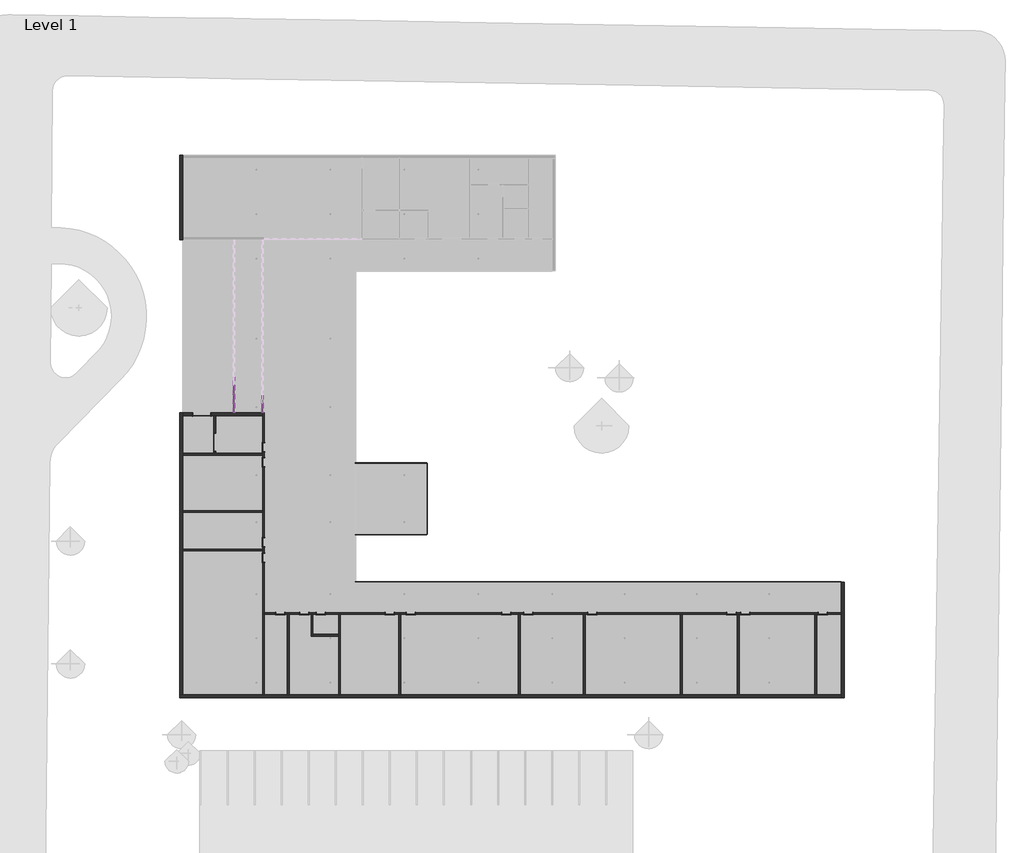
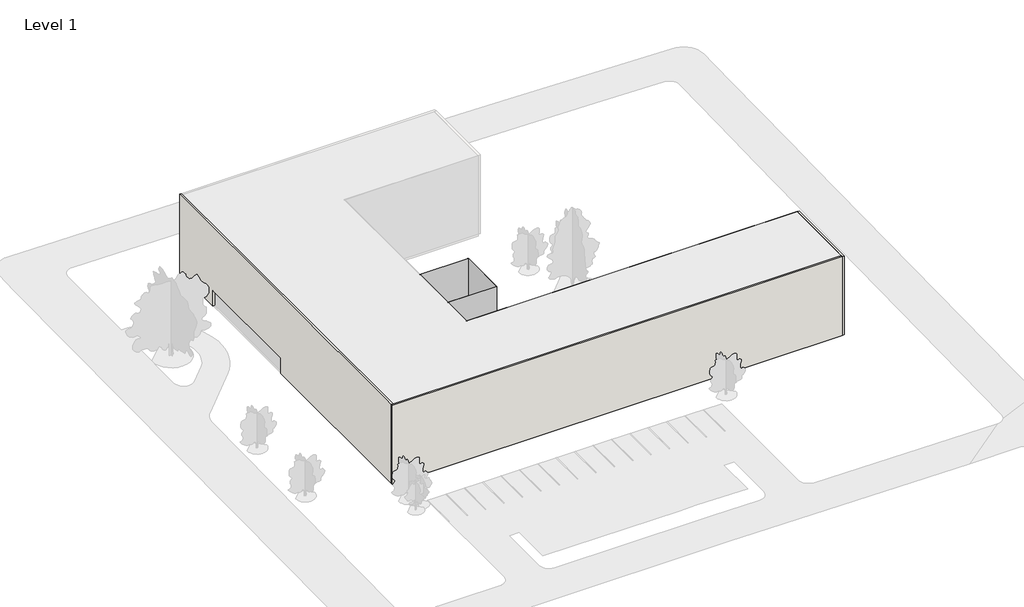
# One storey, part 1 of 5: 28 members, 21 walls, 17 doors, 13 plates.
"""IFC4 building model written with IfcOpenShell, lengths in millimetres."""

from ifc_helpers import new_model, si_unit, frame, origin, origin_with_axes, place, context, project, spatial, polyline, outline, extrude, faceted_brep, transform, mapped, element, save
from components import door_0915mm_x_2134mm_2aa27b83, door_0915mm_x_2134mm_3fa07aa3, door_2_x_0915mm_x_2134mm_c74f849d, door_2_x_0915mm_x_2134mm_afd50e46, rectangular_mullion_50mm_x_150mm_3fa3ad65, rectangular_mullion_50mm_x_150mm_d427b131, rectangular_mullion_50mm_x_150mm_d8a63713, rectangular_mullion_50mm_x_150mm_a28728bf, rectangular_mullion_50mm_x_150mm_a376ce0f, rectangular_mullion_50mm_x_150mm_4471a7bc, rectangular_mullion_50mm_x_150mm_22af440f, rectangular_mullion_50mm_x_150mm_0f59f38f, system_panel_glazed_1087ea87, system_panel_glazed_c5c625d1, system_panel_glazed_4d811192, system_panel_glazed_aa3f7126, system_panel_glazed_37b7c907, system_panel_glazed_7c3f78ea, system_panel_glazed_1f05e993

model = new_model("IFC4")

# Units and contexts
model_context = context("Model", 3, world=origin())
ifc_project = project(units=[si_unit("LENGTHUNIT", "METRE", prefix="MILLI")], contexts=[model_context])

# Site, building, storey
site = spatial("IfcSite", under=ifc_project)
building = spatial("IfcBuilding", under=site)
storey = spatial("IfcBuildingStorey", under=building, Name="Level 1", Elevation=0.0)

# Doors
placement = place(None, origin())
door_0915mm_x_2134mm_shape = door_0915mm_x_2134mm_2aa27b83(model_context)
element("IfcDoor", 1, ObjectType="m-doors-hm-f1-a : 0915mm x 2134mm", at=placement, inside=storey, context=model_context, shape_type="MappedRepresentation", body=[
    mapped(door_0915mm_x_2134mm_shape, transform((-1995.8386635, 1518.5392059, 0.0), x_axis=(0.0, 1.0, 0.0), y_axis=(-1.0, 0.0, 0.0), z_axis=(0.0, 0.0, 1.0))),
])
element("IfcDoor", 2, ObjectType="m-doors-hm-f1-a : 0915mm x 2134mm", at=placement, inside=storey, context=model_context, shape_type="MappedRepresentation", body=[
    mapped(door_0915mm_x_2134mm_shape, transform((-1995.8386635, -8075.8611817, 0.0), x_axis=(0.0, 1.0, 0.0), y_axis=(-1.0, 0.0, 0.0), z_axis=(0.0, 0.0, 1.0))),
])
element("IfcDoor", 3, ObjectType="m-doors-hm-f1-a : 0915mm x 2134mm", at=placement, inside=storey, context=model_context, shape_type="MappedRepresentation", body=[
    mapped(door_0915mm_x_2134mm_shape, transform((-123.8386635, -15479.7006057, 0.0), x_axis=(-1.0, 0.0, 0.0), y_axis=(0.0, -1.0, 0.0), z_axis=(0.0, 0.0, 1.0))),
])
element("IfcDoor", 4, ObjectType="m-doors-hm-f1-a : 0915mm x 2134mm", at=placement, inside=storey, context=model_context, shape_type="MappedRepresentation", body=[
    mapped(door_0915mm_x_2134mm_shape, transform((2284.1613365, -15479.7006057, 0.0), x_axis=(-1.0, 0.0, 0.0), y_axis=(0.0, -1.0, 0.0), z_axis=(0.0, 0.0, 1.0))),
])
element("IfcDoor", 5, ObjectType="m-doors-hm-f1-a : 0915mm x 2134mm", at=placement, inside=storey, context=model_context, shape_type="MappedRepresentation", body=[
    mapped(door_0915mm_x_2134mm_shape, transform((10961.1968037, -15479.7006057, 0.0), x_axis=(-1.0, 0.0, 0.0), y_axis=(0.0, -1.0, 0.0), z_axis=(0.0, 0.0, 1.0))),
])
element("IfcDoor", 6, ObjectType="m-doors-hm-f1-a : 0915mm x 2134mm", at=placement, inside=storey, context=model_context, shape_type="MappedRepresentation", body=[
    mapped(door_0915mm_x_2134mm_shape, transform((13061.1968037, -15479.7006057, 0.0), x_axis=(-1.0, 0.0, 0.0), y_axis=(0.0, -1.0, 0.0), z_axis=(0.0, 0.0, 1.0))),
])
element("IfcDoor", 7, ObjectType="m-doors-hm-f1-a : 0915mm x 2134mm", at=placement, inside=storey, context=model_context, shape_type="MappedRepresentation", body=[
    mapped(door_0915mm_x_2134mm_shape, transform((24961.1968037, -15479.7006057, 0.0), x_axis=(-1.0, 0.0, 0.0), y_axis=(0.0, -1.0, 0.0), z_axis=(0.0, 0.0, 1.0))),
])
element("IfcDoor", 8, ObjectType="m-doors-hm-f1-a : 0915mm x 2134mm", at=placement, inside=storey, context=model_context, shape_type="MappedRepresentation", body=[
    mapped(door_0915mm_x_2134mm_shape, transform((45561.1968037, -15479.7006057, 0.0), x_axis=(-1.0, 0.0, 0.0), y_axis=(0.0, -1.0, 0.0), z_axis=(0.0, 0.0, 1.0))),
])
door_0915mm_x_2134mm_2_shape = door_0915mm_x_2134mm_3fa07aa3(model_context)
element("IfcDoor", 9, ObjectType="m-doors-hm-f1-a : 0915mm x 2134mm", at=placement, inside=storey, context=model_context, shape_type="MappedRepresentation", body=[
    mapped(door_0915mm_x_2134mm_2_shape, transform((-1995.8386635, 18.5392059, 0.0), x_axis=(0.0, -1.0, 0.0), y_axis=(1.0, 0.0, 0.0), z_axis=(0.0, 0.0, 1.0))),
])
element("IfcDoor", 10, ObjectType="m-doors-hm-f1-a : 0915mm x 2134mm", at=placement, inside=storey, context=model_context, shape_type="MappedRepresentation", body=[
    mapped(door_0915mm_x_2134mm_2_shape, transform((-1995.8386635, -9675.8611817, 0.0), x_axis=(0.0, -1.0, 0.0), y_axis=(1.0, 0.0, 0.0), z_axis=(0.0, 0.0, 1.0))),
])
element("IfcDoor", 11, ObjectType="m-doors-hm-f1-a : 0915mm x 2134mm", at=placement, inside=storey, context=model_context, shape_type="MappedRepresentation", body=[
    mapped(door_0915mm_x_2134mm_2_shape, transform((3984.1613365, -15479.7006057, 0.0), x_axis=(1.0, 0.0, 0.0), y_axis=(0.0, 1.0, 0.0), z_axis=(0.0, 0.0, 1.0))),
])
element("IfcDoor", 12, ObjectType="m-doors-hm-f1-a : 0915mm x 2134mm", at=placement, inside=storey, context=model_context, shape_type="MappedRepresentation", body=[
    mapped(door_0915mm_x_2134mm_2_shape, transform((22761.1968037, -15479.7006057, 0.0), x_axis=(1.0, 0.0, 0.0), y_axis=(0.0, 1.0, 0.0), z_axis=(0.0, 0.0, 1.0))),
])
element("IfcDoor", 13, ObjectType="m-doors-hm-f1-a : 0915mm x 2134mm", at=placement, inside=storey, context=model_context, shape_type="MappedRepresentation", body=[
    mapped(door_0915mm_x_2134mm_2_shape, transform((31461.1968037, -15479.7006057, 0.0), x_axis=(1.0, 0.0, 0.0), y_axis=(0.0, 1.0, 0.0), z_axis=(0.0, 0.0, 1.0))),
])
element("IfcDoor", 14, ObjectType="m-doors-hm-f1-a : 0915mm x 2134mm", at=placement, inside=storey, context=model_context, shape_type="MappedRepresentation", body=[
    mapped(door_0915mm_x_2134mm_2_shape, transform((54804.1173382, -15479.7006057, 0.0), x_axis=(1.0, 0.0, 0.0), y_axis=(0.0, 1.0, 0.0), z_axis=(0.0, 0.0, 1.0))),
])
element("IfcDoor", 15, ObjectType="m-doors-hm-f1-a : 0915mm x 2134mm", at=placement, inside=storey, context=model_context, shape_type="MappedRepresentation", body=[
    mapped(door_0915mm_x_2134mm_2_shape, transform((46961.1968037, -15479.7006057, 0.0), x_axis=(1.0, 0.0, 0.0), y_axis=(0.0, 1.0, 0.0), z_axis=(0.0, 0.0, 1.0))),
])
door_2_x_0915mm_x_2134mm_shape = door_2_x_0915mm_x_2134mm_c74f849d(model_context)
element("IfcDoor", 16, ObjectType="m-doors-hm-f2-a : 2 x 0915mm x 2134mm", at=placement, inside=storey, context=model_context, shape_type="MappedRepresentation", body=[
    mapped(door_2_x_0915mm_x_2134mm_shape, transform((-6944.8386635, 2018.5392059, 0.0), x_axis=(0.0, 1.0, 0.0), y_axis=(-1.0, 0.0, 0.0), z_axis=(0.0, 0.0, 1.0))),
])
door_2_x_0915mm_x_2134mm_2_shape = door_2_x_0915mm_x_2134mm_afd50e46(model_context)
element("IfcDoor", 17, ObjectType="m-doors-hm-f2-a : 2 x 0915mm x 2134mm", at=placement, inside=storey, context=model_context, shape_type="MappedRepresentation", body=[
    mapped(door_2_x_0915mm_x_2134mm_2_shape, transform((-8069.8386635, 4696.5799804, 0.0), x_axis=(-1.0, 0.0, 0.0), y_axis=(0.0, -1.0, 0.0), z_axis=(0.0, 0.0, 1.0))),
])

# Members
rectangular_mullion_50mm_x_150mm_shape = rectangular_mullion_50mm_x_150mm_3fa3ad65(model_context)
element("IfcMember", 18, ObjectType="Rectangular Mullion : 50mm x 150mm", at=placement, inside=storey, context=model_context, shape_type="MappedRepresentation", body=[
    mapped(rectangular_mullion_50mm_x_150mm_shape, transform((-1903.8386635, 5072.5799804, 3550.0), x_axis=(0.0, 0.0, 1.0), y_axis=(-1.0, 0.0, 0.0), z_axis=(0.0, -1.0, 0.0))),
])
element("IfcMember", 19, ObjectType="Rectangular Mullion : 50mm x 150mm", at=placement, inside=storey, context=model_context, shape_type="MappedRepresentation", body=[
    mapped(rectangular_mullion_50mm_x_150mm_shape, transform((-4803.8386635, 5072.5799804, 3550.0), x_axis=(0.0, 0.0, 1.0), y_axis=(-1.0, 0.0, 0.0), z_axis=(0.0, -1.0, 0.0))),
])
rectangular_mullion_50mm_x_150mm_2_shape = rectangular_mullion_50mm_x_150mm_d427b131(model_context)
element("IfcMember", 20, ObjectType="Rectangular Mullion : 50mm x 150mm", at=placement, inside=storey, context=model_context, shape_type="MappedRepresentation", body=[
    mapped(rectangular_mullion_50mm_x_150mm_2_shape, transform((-1903.8386635, 5968.5273491, 3550.0), x_axis=(0.0, 0.0, 1.0), y_axis=(-1.0, 0.0, 0.0), z_axis=(0.0, -1.0, 0.0))),
])
element("IfcMember", 21, ObjectType="Rectangular Mullion : 50mm x 150mm", at=placement, inside=storey, context=model_context, shape_type="MappedRepresentation", body=[
    mapped(rectangular_mullion_50mm_x_150mm_2_shape, transform((-4803.8386635, 7810.4220859, 3550.0), x_axis=(0.0, 0.0, 1.0), y_axis=(-1.0, 0.0, 0.0), z_axis=(0.0, -1.0, 0.0))),
])
element("IfcMember", 22, ObjectType="Rectangular Mullion : 50mm x 150mm", at=placement, inside=storey, context=model_context, shape_type="MappedRepresentation", body=[
    mapped(rectangular_mullion_50mm_x_150mm_2_shape, transform((-4803.8386635, 6889.4747175, 3550.0), x_axis=(0.0, 0.0, 1.0), y_axis=(-1.0, 0.0, 0.0), z_axis=(0.0, -1.0, 0.0))),
])
element("IfcMember", 23, ObjectType="Rectangular Mullion : 50mm x 150mm", at=placement, inside=storey, context=model_context, shape_type="MappedRepresentation", body=[
    mapped(rectangular_mullion_50mm_x_150mm_2_shape, transform((-4803.8386635, 5968.5273491, 3550.0), x_axis=(0.0, 0.0, 1.0), y_axis=(-1.0, 0.0, 0.0), z_axis=(0.0, -1.0, 0.0))),
])
element("IfcMember", 24, ObjectType="Rectangular Mullion : 50mm x 150mm", at=placement, inside=storey, context=model_context, shape_type="MappedRepresentation", body=[
    mapped(rectangular_mullion_50mm_x_150mm_2_shape, transform((-4803.8386635, 7760.4220859, 0.0), x_axis=(0.0, 0.0, -1.0), y_axis=(-1.0, 0.0, 0.0), z_axis=(0.0, 1.0, 0.0))),
])
element("IfcMember", 25, ObjectType="Rectangular Mullion : 50mm x 150mm", at=placement, inside=storey, context=model_context, shape_type="MappedRepresentation", body=[
    mapped(rectangular_mullion_50mm_x_150mm_2_shape, transform((-4803.8386635, 6839.4747175, 0.0), x_axis=(0.0, 0.0, -1.0), y_axis=(-1.0, 0.0, 0.0), z_axis=(0.0, 1.0, 0.0))),
])
element("IfcMember", 26, ObjectType="Rectangular Mullion : 50mm x 150mm", at=placement, inside=storey, context=model_context, shape_type="MappedRepresentation", body=[
    mapped(rectangular_mullion_50mm_x_150mm_shape, transform((-1903.8386635, 5918.5273491, 0.0), x_axis=(0.0, 0.0, -1.0), y_axis=(-1.0, 0.0, 0.0), z_axis=(0.0, 1.0, 0.0))),
])
element("IfcMember", 27, ObjectType="Rectangular Mullion : 50mm x 150mm", at=placement, inside=storey, context=model_context, shape_type="MappedRepresentation", body=[
    mapped(rectangular_mullion_50mm_x_150mm_shape, transform((-4803.8386635, 5918.5273491, 0.0), x_axis=(0.0, 0.0, -1.0), y_axis=(-1.0, 0.0, 0.0), z_axis=(0.0, 1.0, 0.0))),
])
rectangular_mullion_50mm_x_150mm_3_shape = rectangular_mullion_50mm_x_150mm_d8a63713(model_context)
element("IfcMember", 28, ObjectType="Rectangular Mullion : 50mm x 150mm", at=placement, inside=storey, context=model_context, shape_type="MappedRepresentation", body=[
    mapped(rectangular_mullion_50mm_x_150mm_3_shape, transform((-1903.8386635, 5943.5273491, 0.0), x_axis=(0.0, -1.0, 0.0), y_axis=(-1.0, 0.0, 0.0), z_axis=(0.0, 0.0, -1.0))),
])
element("IfcMember", 29, ObjectType="Rectangular Mullion : 50mm x 150mm", at=placement, inside=storey, context=model_context, shape_type="MappedRepresentation", body=[
    mapped(rectangular_mullion_50mm_x_150mm_3_shape, transform((-4803.8386635, 7785.4220859, 0.0), x_axis=(0.0, -1.0, 0.0), y_axis=(-1.0, 0.0, 0.0), z_axis=(0.0, 0.0, -1.0))),
])
element("IfcMember", 30, ObjectType="Rectangular Mullion : 50mm x 150mm", at=placement, inside=storey, context=model_context, shape_type="MappedRepresentation", body=[
    mapped(rectangular_mullion_50mm_x_150mm_3_shape, transform((-4803.8386635, 6864.4747175, 0.0), x_axis=(0.0, -1.0, 0.0), y_axis=(-1.0, 0.0, 0.0), z_axis=(0.0, 0.0, -1.0))),
])
element("IfcMember", 31, ObjectType="Rectangular Mullion : 50mm x 150mm", at=placement, inside=storey, context=model_context, shape_type="MappedRepresentation", body=[
    mapped(rectangular_mullion_50mm_x_150mm_3_shape, transform((-4803.8386635, 5943.5273491, 0.0), x_axis=(0.0, -1.0, 0.0), y_axis=(-1.0, 0.0, 0.0), z_axis=(0.0, 0.0, -1.0))),
])
rectangular_mullion_50mm_x_150mm_4_shape = rectangular_mullion_50mm_x_150mm_a28728bf(model_context)
element("IfcMember", 32, ObjectType="Rectangular Mullion : 50mm x 150mm", at=placement, inside=storey, context=model_context, shape_type="MappedRepresentation", body=[
    mapped(rectangular_mullion_50mm_x_150mm_4_shape, transform((-1903.8386635, 5943.5273491, 2135.0), x_axis=(0.0, -1.0, 0.0), y_axis=(-1.0, 0.0, 0.0), z_axis=(0.0, 0.0, -1.0))),
])
element("IfcMember", 33, ObjectType="Rectangular Mullion : 50mm x 150mm", at=placement, inside=storey, context=model_context, shape_type="MappedRepresentation", body=[
    mapped(rectangular_mullion_50mm_x_150mm_4_shape, transform((-4803.8386635, 7785.4220859, 2135.0), x_axis=(0.0, -1.0, 0.0), y_axis=(-1.0, 0.0, 0.0), z_axis=(0.0, 0.0, -1.0))),
])
element("IfcMember", 34, ObjectType="Rectangular Mullion : 50mm x 150mm", at=placement, inside=storey, context=model_context, shape_type="MappedRepresentation", body=[
    mapped(rectangular_mullion_50mm_x_150mm_4_shape, transform((-4803.8386635, 6864.4747175, 2135.0), x_axis=(0.0, -1.0, 0.0), y_axis=(-1.0, 0.0, 0.0), z_axis=(0.0, 0.0, -1.0))),
])
element("IfcMember", 35, ObjectType="Rectangular Mullion : 50mm x 150mm", at=placement, inside=storey, context=model_context, shape_type="MappedRepresentation", body=[
    mapped(rectangular_mullion_50mm_x_150mm_4_shape, transform((-4803.8386635, 5943.5273491, 2135.0), x_axis=(0.0, -1.0, 0.0), y_axis=(-1.0, 0.0, 0.0), z_axis=(0.0, 0.0, -1.0))),
])
rectangular_mullion_50mm_x_150mm_5_shape = rectangular_mullion_50mm_x_150mm_a376ce0f(model_context)
element("IfcMember", 36, ObjectType="Rectangular Mullion : 50mm x 150mm", at=placement, inside=storey, context=model_context, shape_type="MappedRepresentation", body=[
    mapped(rectangular_mullion_50mm_x_150mm_5_shape, transform((-1903.8386635, 5072.5799804, 2135.0), x_axis=(0.0, 0.0, 1.0), y_axis=(-1.0, 0.0, 0.0), z_axis=(0.0, -1.0, 0.0))),
])
element("IfcMember", 37, ObjectType="Rectangular Mullion : 50mm x 150mm", at=placement, inside=storey, context=model_context, shape_type="MappedRepresentation", body=[
    mapped(rectangular_mullion_50mm_x_150mm_5_shape, transform((-4803.8386635, 5072.5799804, 2135.0), x_axis=(0.0, 0.0, 1.0), y_axis=(-1.0, 0.0, 0.0), z_axis=(0.0, -1.0, 0.0))),
])
rectangular_mullion_50mm_x_150mm_6_shape = rectangular_mullion_50mm_x_150mm_4471a7bc(model_context)
element("IfcMember", 38, ObjectType="Rectangular Mullion : 50mm x 150mm", at=placement, inside=storey, context=model_context, shape_type="MappedRepresentation", body=[
    mapped(rectangular_mullion_50mm_x_150mm_6_shape, transform((-1903.8386635, 5968.5273491, 2135.0), x_axis=(0.0, 0.0, 1.0), y_axis=(-1.0, 0.0, 0.0), z_axis=(0.0, -1.0, 0.0))),
])
element("IfcMember", 39, ObjectType="Rectangular Mullion : 50mm x 150mm", at=placement, inside=storey, context=model_context, shape_type="MappedRepresentation", body=[
    mapped(rectangular_mullion_50mm_x_150mm_6_shape, transform((-4803.8386635, 7810.4220859, 2135.0), x_axis=(0.0, 0.0, 1.0), y_axis=(-1.0, 0.0, 0.0), z_axis=(0.0, -1.0, 0.0))),
])
element("IfcMember", 40, ObjectType="Rectangular Mullion : 50mm x 150mm", at=placement, inside=storey, context=model_context, shape_type="MappedRepresentation", body=[
    mapped(rectangular_mullion_50mm_x_150mm_6_shape, transform((-4803.8386635, 6889.4747175, 2135.0), x_axis=(0.0, 0.0, 1.0), y_axis=(-1.0, 0.0, 0.0), z_axis=(0.0, -1.0, 0.0))),
])
element("IfcMember", 41, ObjectType="Rectangular Mullion : 50mm x 150mm", at=placement, inside=storey, context=model_context, shape_type="MappedRepresentation", body=[
    mapped(rectangular_mullion_50mm_x_150mm_6_shape, transform((-4803.8386635, 5968.5273491, 2135.0), x_axis=(0.0, 0.0, 1.0), y_axis=(-1.0, 0.0, 0.0), z_axis=(0.0, -1.0, 0.0))),
])
rectangular_mullion_50mm_x_150mm_7_shape = rectangular_mullion_50mm_x_150mm_22af440f(model_context)
element("IfcMember", 42, ObjectType="Rectangular Mullion : 50mm x 150mm", at=placement, inside=storey, context=model_context, shape_type="MappedRepresentation", body=[
    mapped(rectangular_mullion_50mm_x_150mm_7_shape, transform((-1903.8386635, 5022.5799804, 0.0), x_axis=(0.0, -1.0, 0.0), y_axis=(-1.0, 0.0, 0.0), z_axis=(0.0, 0.0, -1.0))),
])
element("IfcMember", 43, ObjectType="Rectangular Mullion : 50mm x 150mm", at=placement, inside=storey, context=model_context, shape_type="MappedRepresentation", body=[
    mapped(rectangular_mullion_50mm_x_150mm_7_shape, transform((-4803.8386635, 5022.5799804, 0.0), x_axis=(0.0, -1.0, 0.0), y_axis=(-1.0, 0.0, 0.0), z_axis=(0.0, 0.0, -1.0))),
])
rectangular_mullion_50mm_x_150mm_8_shape = rectangular_mullion_50mm_x_150mm_0f59f38f(model_context)
element("IfcMember", 44, ObjectType="Rectangular Mullion : 50mm x 150mm", at=placement, inside=storey, context=model_context, shape_type="MappedRepresentation", body=[
    mapped(rectangular_mullion_50mm_x_150mm_8_shape, transform((-1903.8386635, 5022.5799804, 2135.0), x_axis=(0.0, -1.0, 0.0), y_axis=(-1.0, 0.0, 0.0), z_axis=(0.0, 0.0, -1.0))),
])
element("IfcMember", 45, ObjectType="Rectangular Mullion : 50mm x 150mm", at=placement, inside=storey, context=model_context, shape_type="MappedRepresentation", body=[
    mapped(rectangular_mullion_50mm_x_150mm_8_shape, transform((-4803.8386635, 5022.5799804, 2135.0), x_axis=(0.0, -1.0, 0.0), y_axis=(-1.0, 0.0, 0.0), z_axis=(0.0, 0.0, -1.0))),
])

# Plates
system_panel_glazed_shape = system_panel_glazed_1087ea87(model_context)
element("IfcPlate", 46, ObjectType="System Panel : Glazed", at=placement, inside=storey, context=model_context, shape_type="MappedRepresentation", body=[
    mapped(system_panel_glazed_shape, transform((32073.3092053, -12132.3615692, 0.0), x_axis=(-1.0, 0.0, 0.0), y_axis=(0.0, -1.0, 0.0), z_axis=(0.0, 0.0, 1.0))),
])
system_panel_glazed_2_shape = system_panel_glazed_c5c625d1(model_context)
element("IfcPlate", 47, ObjectType="System Panel : Glazed", at=placement, inside=storey, context=model_context, shape_type="MappedRepresentation", body=[
    mapped(system_panel_glazed_2_shape, transform((11078.2956387, -89.4607941, 0.0), x_axis=(-1.0, 0.0, 0.0), y_axis=(0.0, -1.0, 0.0), z_axis=(0.0, 0.0, 1.0))),
])
element("IfcPlate", 48, ObjectType="System Panel : Glazed", at=placement, inside=storey, context=model_context, shape_type="MappedRepresentation", body=[
    mapped(system_panel_glazed_2_shape, transform((11078.2956387, -7283.8611817, 0.0), x_axis=(1.0, 0.0, 0.0), y_axis=(0.0, 1.0, 0.0), z_axis=(0.0, 0.0, 1.0))),
])
system_panel_glazed_3_shape = system_panel_glazed_4d811192(model_context)
element("IfcPlate", 49, ObjectType="System Panel : Glazed", at=placement, inside=storey, context=model_context, shape_type="MappedRepresentation", body=[
    mapped(system_panel_glazed_3_shape, transform((14709.0902051, -3686.6609879, 0.0), x_axis=(0.0, 1.0, 0.0), y_axis=(-1.0, 0.0, 0.0), z_axis=(0.0, 0.0, 1.0))),
])
system_panel_glazed_4_shape = system_panel_glazed_aa3f7126(model_context)
element("IfcPlate", 50, ObjectType="System Panel : Glazed", at=placement, inside=storey, context=model_context, shape_type="MappedRepresentation", body=[
    mapped(system_panel_glazed_4_shape, transform((-1903.8386635, 5495.5536647, 50.0), x_axis=(0.0, -1.0, 0.0), y_axis=(1.0, 0.0, 0.0), z_axis=(0.0, 0.0, 1.0))),
])
element("IfcPlate", 51, ObjectType="System Panel : Glazed", at=placement, inside=storey, context=model_context, shape_type="MappedRepresentation", body=[
    mapped(system_panel_glazed_4_shape, transform((-4803.8386635, 5495.5536647, 50.0), x_axis=(0.0, -1.0, 0.0), y_axis=(1.0, 0.0, 0.0), z_axis=(0.0, 0.0, 1.0))),
])
system_panel_glazed_5_shape = system_panel_glazed_37b7c907(model_context)
element("IfcPlate", 52, ObjectType="System Panel : Glazed", at=placement, inside=storey, context=model_context, shape_type="MappedRepresentation", body=[
    mapped(system_panel_glazed_5_shape, transform((-1903.8386635, 6404.0010333, 50.0), x_axis=(0.0, -1.0, 0.0), y_axis=(1.0, 0.0, 0.0), z_axis=(0.0, 0.0, 1.0))),
])
element("IfcPlate", 53, ObjectType="System Panel : Glazed", at=placement, inside=storey, context=model_context, shape_type="MappedRepresentation", body=[
    mapped(system_panel_glazed_5_shape, transform((-4803.8386635, 7324.9484017, 50.0), x_axis=(0.0, -1.0, 0.0), y_axis=(1.0, 0.0, 0.0), z_axis=(0.0, 0.0, 1.0))),
])
element("IfcPlate", 54, ObjectType="System Panel : Glazed", at=placement, inside=storey, context=model_context, shape_type="MappedRepresentation", body=[
    mapped(system_panel_glazed_5_shape, transform((-4803.8386635, 6404.0010333, 50.0), x_axis=(0.0, -1.0, 0.0), y_axis=(1.0, 0.0, 0.0), z_axis=(0.0, 0.0, 1.0))),
])
system_panel_glazed_6_shape = system_panel_glazed_7c3f78ea(model_context)
element("IfcPlate", 55, ObjectType="System Panel : Glazed", at=placement, inside=storey, context=model_context, shape_type="MappedRepresentation", body=[
    mapped(system_panel_glazed_6_shape, transform((-1903.8386635, 5495.5536647, 2160.0), x_axis=(0.0, -1.0, 0.0), y_axis=(1.0, 0.0, 0.0), z_axis=(0.0, 0.0, 1.0))),
])
element("IfcPlate", 56, ObjectType="System Panel : Glazed", at=placement, inside=storey, context=model_context, shape_type="MappedRepresentation", body=[
    mapped(system_panel_glazed_6_shape, transform((-4803.8386635, 5495.5536647, 2160.0), x_axis=(0.0, -1.0, 0.0), y_axis=(1.0, 0.0, 0.0), z_axis=(0.0, 0.0, 1.0))),
])
system_panel_glazed_7_shape = system_panel_glazed_1f05e993(model_context)
element("IfcPlate", 57, ObjectType="System Panel : Glazed", at=placement, inside=storey, context=model_context, shape_type="MappedRepresentation", body=[
    mapped(system_panel_glazed_7_shape, transform((-4803.8386635, 7324.9484017, 2160.0), x_axis=(0.0, -1.0, 0.0), y_axis=(1.0, 0.0, 0.0), z_axis=(0.0, 0.0, 1.0))),
])
element("IfcPlate", 58, ObjectType="System Panel : Glazed", at=placement, inside=storey, context=model_context, shape_type="MappedRepresentation", body=[
    mapped(system_panel_glazed_7_shape, transform((-4803.8386635, 6404.0010333, 2160.0), x_axis=(0.0, -1.0, 0.0), y_axis=(1.0, 0.0, 0.0), z_axis=(0.0, 0.0, 1.0))),
])

# Walls
element("IfcWall", 59, ObjectType="P6 184mm - 1HR - ULC #W453", at=placement, inside=storey, context=model_context, shape_type="Brep", body=[
    faceted_brep([(56699.1173382, -15396.7006057, 3550.0), (54199.1173382, -15396.7006057, 3550.0), (54009.1173382, -15396.7006057, 3550.0), (46353.1968037, -15396.7006057, 3550.0), (46169.1968037, -15396.7006057, 3550.0), (40553.1968037, -15396.7006057, 3550.0), (40369.1968037, -15396.7006057, 3550.0), (30753.1968037, -15396.7006057, 3550.0), (30569.1968037, -15396.7006057, 3550.0), (24153.1968037, -15396.7006057, 3550.0), (23969.1968037, -15396.7006057, 3550.0), (12053.1968037, -15396.7006057, 3550.0), (11869.1968037, -15396.7006057, 3550.0), (5953.1968037, -15396.7006057, 3550.0), (5769.1968037, -15396.7006057, 3550.0), (3176.1613365, -15396.7006057, 3550.0), (2992.1613365, -15396.7006057, 3550.0), (771.1613365, -15396.7006057, 3550.0), (581.1613365, -15396.7006057, 3550.0), (-1728.8386635, -15396.7006057, 3550.0), (-1728.8386635, -15396.7006057, 0.0), (-631.3386635, -15396.7006057, 0.0), (-631.3386635, -15396.7006057, 2184.0), (383.6613365, -15396.7006057, 2184.0), (383.6613365, -15396.7006057, 0.0), (581.1613365, -15396.7006057, 0.0), (771.1613365, -15396.7006057, 0.0), (1776.6613365, -15396.7006057, 0.0), (1776.6613365, -15396.7006057, 2184.0), (2791.6613365, -15396.7006057, 2184.0), (2791.6613365, -15396.7006057, 0.0), (2992.1613365, -15396.7006057, 0.0), (3176.1613365, -15396.7006057, 0.0), (3476.6613365, -15396.7006057, 0.0), (3476.6613365, -15396.7006057, 2184.0), (4491.6613365, -15396.7006057, 2184.0), (4491.6613365, -15396.7006057, 0.0), (5769.1968037, -15396.7006057, 0.0), (5953.1968037, -15396.7006057, 0.0), (10453.6968037, -15396.7006057, 0.0), (10453.6968037, -15396.7006057, 2184.0), (11468.6968037, -15396.7006057, 2184.0), (11468.6968037, -15396.7006057, 0.0), (11869.1968037, -15396.7006057, 0.0), (12053.1968037, -15396.7006057, 0.0), (12553.6968037, -15396.7006057, 0.0), (12553.6968037, -15396.7006057, 2184.0), (13568.6968037, -15396.7006057, 2184.0), (13568.6968037, -15396.7006057, 0.0), (22253.6968037, -15396.7006057, 0.0), (22253.6968037, -15396.7006057, 2184.0), (23268.6968037, -15396.7006057, 2184.0), (23268.6968037, -15396.7006057, 0.0), (23969.1968037, -15396.7006057, 0.0), (24153.1968037, -15396.7006057, 0.0), (24453.6968037, -15396.7006057, 0.0), (24453.6968037, -15396.7006057, 2184.0), (25468.6968037, -15396.7006057, 2184.0), (25468.6968037, -15396.7006057, 0.0), (30569.1968037, -15396.7006057, 0.0), (30753.1968037, -15396.7006057, 0.0), (30953.6968037, -15396.7006057, 0.0), (30953.6968037, -15396.7006057, 2184.0), (31968.6968037, -15396.7006057, 2184.0), (31968.6968037, -15396.7006057, 0.0), (40369.1968037, -15396.7006057, 0.0), (40553.1968037, -15396.7006057, 0.0), (45053.6968037, -15396.7006057, 0.0), (45053.6968037, -15396.7006057, 2184.0), (46068.6968037, -15396.7006057, 2184.0), (46068.6968037, -15396.7006057, 0.0), (46169.1968037, -15396.7006057, 0.0), (46353.1968037, -15396.7006057, 0.0), (46453.6968037, -15396.7006057, 0.0), (46453.6968037, -15396.7006057, 2184.0), (47468.6968037, -15396.7006057, 2184.0), (47468.6968037, -15396.7006057, 0.0), (54009.1173382, -15396.7006057, 0.0), (54199.1173382, -15396.7006057, 0.0), (54296.6173382, -15396.7006057, 0.0), (54296.6173382, -15396.7006057, 2184.0), (55311.6173382, -15396.7006057, 2184.0), (55311.6173382, -15396.7006057, 0.0), (56699.1173382, -15396.7006057, 0.0), (-1728.8386635, -15212.7006057, 3550.0), (56699.1173382, -15212.7006057, 3550.0), (56699.1173382, -15212.7006057, 0.0), (55311.6173382, -15212.7006057, 0.0), (55311.6173382, -15212.7006057, 2184.0), (54296.6173382, -15212.7006057, 2184.0), (54296.6173382, -15212.7006057, 0.0), (47468.6968037, -15212.7006057, 0.0), (47468.6968037, -15212.7006057, 2184.0), (46453.6968037, -15212.7006057, 2184.0), (46453.6968037, -15212.7006057, 0.0), (46068.6968037, -15212.7006057, 0.0), (46068.6968037, -15212.7006057, 2184.0), (45053.6968037, -15212.7006057, 2184.0), (45053.6968037, -15212.7006057, 0.0), (31968.6968037, -15212.7006057, 0.0), (31968.6968037, -15212.7006057, 2184.0), (30953.6968037, -15212.7006057, 2184.0), (30953.6968037, -15212.7006057, 0.0), (25468.6968037, -15212.7006057, 0.0), (25468.6968037, -15212.7006057, 2184.0), (24453.6968037, -15212.7006057, 2184.0), (24453.6968037, -15212.7006057, 0.0), (23268.6968037, -15212.7006057, 0.0), (23268.6968037, -15212.7006057, 2184.0), (22253.6968037, -15212.7006057, 2184.0), (22253.6968037, -15212.7006057, 0.0), (13568.6968037, -15212.7006057, 0.0), (13568.6968037, -15212.7006057, 2184.0), (12553.6968037, -15212.7006057, 2184.0), (12553.6968037, -15212.7006057, 0.0), (11468.6968037, -15212.7006057, 0.0), (11468.6968037, -15212.7006057, 2184.0), (10453.6968037, -15212.7006057, 2184.0), (10453.6968037, -15212.7006057, 0.0), (4491.6613365, -15212.7006057, 0.0), (4491.6613365, -15212.7006057, 2184.0), (3476.6613365, -15212.7006057, 2184.0), (3476.6613365, -15212.7006057, 0.0), (2791.6613365, -15212.7006057, 0.0), (2791.6613365, -15212.7006057, 2184.0), (1776.6613365, -15212.7006057, 2184.0), (1776.6613365, -15212.7006057, 0.0), (383.6613365, -15212.7006057, 0.0), (383.6613365, -15212.7006057, 2184.0), (-631.3386635, -15212.7006057, 2184.0), (-631.3386635, -15212.7006057, 0.0), (-1728.8386635, -15212.7006057, 0.0), (-1728.8386635, -15304.7006057, 0.0), (-1728.8386635, -15304.7006057, 3550.0)], [[[0, 1, 2, 3, 4, 5, 6, 7, 8, 9, 10, 11, 12, 13, 14, 15, 16, 17, 18, 19, 20, 21, 22, 23, 24, 25, 26, 27, 28, 29, 30, 31, 32, 33, 34, 35, 36, 37, 38, 39, 40, 41, 42, 43, 44, 45, 46, 47, 48, 49, 50, 51, 52, 53, 54, 55, 56, 57, 58, 59, 60, 61, 62, 63, 64, 65, 66, 67, 68, 69, 70, 71, 72, 73, 74, 75, 76, 77, 78, 79, 80, 81, 82, 83]], [[84, 85, 86, 87, 88, 89, 90, 91, 92, 93, 94, 95, 96, 97, 98, 99, 100, 101, 102, 103, 104, 105, 106, 107, 108, 109, 110, 111, 112, 113, 114, 115, 116, 117, 118, 119, 120, 121, 122, 123, 124, 125, 126, 127, 128, 129, 130, 131]], [[86, 83, 82, 87]], [[20, 132, 131, 130, 21]], [[24, 127, 126, 27, 26, 25]], [[30, 123, 122, 33, 32, 31]], [[36, 119, 118, 39, 38, 37]], [[42, 115, 114, 45, 44, 43]], [[48, 111, 110, 49]], [[52, 107, 106, 55, 54, 53]], [[58, 103, 102, 61, 60, 59]], [[64, 99, 98, 67, 66, 65]], [[70, 95, 94, 73, 72, 71]], [[90, 79, 78, 77, 76, 91]], [[19, 18, 17, 16, 15, 14, 13, 12, 11, 10, 9, 8, 7, 6, 5, 4, 3, 2, 1, 0, 85, 84, 133]], [[0, 83, 86, 85]], [[20, 19, 133, 84, 131, 132]], [[129, 22, 21, 130]], [[22, 129, 128, 23]], [[23, 128, 127, 24]], [[125, 28, 27, 126]], [[28, 125, 124, 29]], [[29, 124, 123, 30]], [[36, 35, 120, 119]], [[35, 34, 121, 120]], [[34, 33, 122, 121]], [[117, 40, 39, 118]], [[40, 117, 116, 41]], [[41, 116, 115, 42]], [[113, 46, 45, 114]], [[46, 113, 112, 47]], [[47, 112, 111, 48]], [[52, 51, 108, 107]], [[51, 50, 109, 108]], [[50, 49, 110, 109]], [[105, 56, 55, 106]], [[56, 105, 104, 57]], [[57, 104, 103, 58]], [[64, 63, 100, 99]], [[63, 62, 101, 100]], [[62, 61, 102, 101]], [[97, 68, 67, 98]], [[68, 97, 96, 69]], [[69, 96, 95, 70]], [[82, 81, 88, 87]], [[81, 80, 89, 88]], [[80, 79, 90, 89]], [[75, 92, 91, 76]], [[92, 75, 74, 93]], [[93, 74, 73, 94]]]),
])
element("IfcWall", 60, ObjectType="P6 184mm - 1HR - ULC #W453", at=placement, inside=storey, context=model_context, shape_type="Brep", body=[
    faceted_brep([(-1912.8386635, -15304.7006057, 0.0), (-1912.8386635, -15304.7006057, 3550.0), (-1912.8386635, -8967.8611817, 3550.0), (-1912.8386635, -8783.8611817, 3550.0), (-1912.8386635, -5067.8611817, 3550.0), (-1912.8386635, -4883.8611817, 3550.0), (-1912.8386635, 726.5392059, 3550.0), (-1912.8386635, 910.5392059, 3550.0), (-1912.8386635, 4720.5799804, 3550.0), (-1912.8386635, 5022.5799804, 3550.0), (-1912.8386635, 5022.5799804, 0.0), (-1912.8386635, 4720.5799804, 0.0), (-1912.8386635, 2026.0392059, 0.0), (-1912.8386635, 2026.0392059, 2184.0), (-1912.8386635, 1011.0392059, 2184.0), (-1912.8386635, 1011.0392059, 0.0), (-1912.8386635, 910.5392059, 0.0), (-1912.8386635, 726.5392059, 0.0), (-1912.8386635, 526.0392059, 0.0), (-1912.8386635, 526.0392059, 2184.0), (-1912.8386635, -488.9607941, 2184.0), (-1912.8386635, -488.9607941, 0.0), (-1912.8386635, -4883.8611817, 0.0), (-1912.8386635, -5067.8611817, 0.0), (-1912.8386635, -7568.3611817, 0.0), (-1912.8386635, -7568.3611817, 2184.0), (-1912.8386635, -8583.3611817, 2184.0), (-1912.8386635, -8583.3611817, 0.0), (-1912.8386635, -8783.8611817, 0.0), (-1912.8386635, -8967.8611817, 0.0), (-1912.8386635, -9168.3611817, 0.0), (-1912.8386635, -9168.3611817, 2184.0), (-1912.8386635, -10183.3611817, 2184.0), (-1912.8386635, -10183.3611817, 0.0), (-1728.8386635, -15304.7006057, 3550.0), (-1728.8386635, -15304.7006057, 0.0), (-1728.8386635, -15212.7006057, 0.0), (-1728.8386635, -10183.3611817, 0.0), (-1728.8386635, -10183.3611817, 2184.0), (-1728.8386635, -9168.3611817, 2184.0), (-1728.8386635, -9168.3611817, 0.0), (-1728.8386635, -8583.3611817, 0.0), (-1728.8386635, -8583.3611817, 2184.0), (-1728.8386635, -7568.3611817, 2184.0), (-1728.8386635, -7568.3611817, 0.0), (-1728.8386635, -488.9607941, 0.0), (-1728.8386635, -488.9607941, 2184.0), (-1728.8386635, 526.0392059, 2184.0), (-1728.8386635, 526.0392059, 0.0), (-1728.8386635, 1011.0392059, 0.0), (-1728.8386635, 1011.0392059, 2184.0), (-1728.8386635, 2026.0392059, 2184.0), (-1728.8386635, 2026.0392059, 0.0), (-1728.8386635, 5022.5799804, 0.0), (-1728.8386635, 5022.5799804, 3550.0), (-1728.8386635, -15212.7006057, 3550.0)], [[[0, 1, 2, 3, 4, 5, 6, 7, 8, 9, 10, 11, 12, 13, 14, 15, 16, 17, 18, 19, 20, 21, 22, 23, 24, 25, 26, 27, 28, 29, 30, 31, 32, 33]], [[34, 35, 36, 37, 38, 39, 40, 41, 42, 43, 44, 45, 46, 47, 48, 49, 50, 51, 52, 53, 54, 55]], [[10, 53, 52, 12, 11]], [[35, 0, 33, 37, 36]], [[15, 49, 48, 18, 17, 16]], [[21, 45, 44, 24, 23, 22]], [[27, 41, 40, 30, 29, 28]], [[1, 0, 35, 34]], [[9, 8, 7, 6, 5, 4, 3, 2, 1, 34, 55, 54]], [[10, 9, 54, 53]], [[51, 13, 12, 52]], [[13, 51, 50, 14]], [[14, 50, 49, 15]], [[21, 20, 46, 45]], [[20, 19, 47, 46]], [[19, 18, 48, 47]], [[43, 25, 24, 44]], [[25, 43, 42, 26]], [[26, 42, 41, 27]], [[32, 38, 37, 33]], [[38, 32, 31, 39]], [[39, 31, 30, 40]]]),
])
element("IfcWall", 61, ObjectType="P6 184mm - 1HR - ULC #W453", at=placement, inside=storey, context=model_context, shape_type="Brep", body=[
    faceted_brep([(-10026.8386635, 726.5392059, 0.0), (-1912.8386635, 726.5392059, 0.0), (-1912.8386635, 726.5392059, 3550.0), (-10026.8386635, 726.5392059, 3550.0), (-10026.8386635, 910.5392059, 0.0), (-10026.8386635, 910.5392059, 3550.0), (-6861.8386635, 910.5392059, 3550.0), (-6677.8386635, 910.5392059, 3550.0), (-1912.8386635, 910.5392059, 3550.0), (-1912.8386635, 910.5392059, 0.0), (-6677.8386635, 910.5392059, 0.0), (-6861.8386635, 910.5392059, 0.0)], [[[0, 1, 2, 3]], [[4, 5, 6, 7, 8, 9, 10, 11]], [[1, 0, 4, 11, 10, 9]], [[3, 2, 8, 7, 6, 5]], [[0, 3, 5, 4]], [[2, 1, 9, 8]]]),
])
element("IfcWall", 62, ObjectType="P6 184mm - 1HR - ULC #W453", at=placement, inside=storey, context=model_context, shape_type="SweptSolid", body=[
    extrude(outline(polyline([(910.5392059, 3550.0), (4720.5799804, 3550.0), (4720.5799804, 0.0), (2983.5392059, 0.0), (2983.5392059, 2184.0), (1053.5392059, 2184.0), (1053.5392059, 0.0), (910.5392059, 0.0), (910.5392059, 3550.0)])), frame((-6861.8386635, 0.0, 0.0), z_axis=(1.0, 0.0, 0.0), x_axis=(0.0, 1.0, 0.0)), (0.0, 0.0, 1.0), 184.0),
])
element("IfcWall", 63, ObjectType="P6 184mm - 1HR - ULC #W453", at=placement, inside=storey, context=model_context, shape_type="SweptSolid", body=[
    extrude(outline(polyline([(-1912.8386635, -5067.8611817), (-10026.8386635, -5067.8611817), (-10026.8386635, -4883.8611817), (-1912.8386635, -4883.8611817), (-1912.8386635, -5067.8611817)])), origin_with_axes(), (0.0, 0.0, 1.0), 3550.0),
])
element("IfcWall", 64, ObjectType="P6 184mm - 1HR - ULC #W453", at=placement, inside=storey, context=model_context, shape_type="SweptSolid", body=[
    extrude(outline(polyline([(-1912.8386635, -8967.8611817), (-10026.8386635, -8967.8611817), (-10026.8386635, -8783.8611817), (-1912.8386635, -8783.8611817), (-1912.8386635, -8967.8611817)])), origin_with_axes(), (0.0, 0.0, 1.0), 3550.0),
])
element("IfcWall", 65, ObjectType="P6 184mm - 1HR - ULC #W453", at=placement, inside=storey, context=model_context, shape_type="Brep", body=[
    faceted_brep([(5769.1968037, -15396.7006057, 0.0), (5769.1968037, -17412.7006057, 0.0), (5769.1968037, -17596.7006057, 0.0), (5769.1968037, -23510.7006057, 0.0), (5769.1968037, -23510.7006057, 3550.0), (5769.1968037, -17596.7006057, 3550.0), (5769.1968037, -17412.7006057, 3550.0), (5769.1968037, -15396.7006057, 3550.0), (5953.1968037, -15396.7006057, 0.0), (5953.1968037, -15396.7006057, 3550.0), (5953.1968037, -23510.7006057, 3550.0), (5953.1968037, -23510.7006057, 0.0)], [[[0, 1, 2, 3, 4, 5, 6, 7]], [[8, 9, 10, 11]], [[3, 2, 1, 0, 8, 11]], [[7, 6, 5, 4, 10, 9]], [[0, 7, 9, 8]], [[4, 3, 11, 10]]]),
])
element("IfcWall", 66, ObjectType="P6 184mm - 1HR - ULC #W453", at=placement, inside=storey, context=model_context, shape_type="Brep", body=[
    faceted_brep([(2992.1613365, -15396.7006057, 0.0), (2992.1613365, -17596.7006057, 0.0), (2992.1613365, -17596.7006057, 3550.0), (2992.1613365, -15396.7006057, 3550.0), (3176.1613365, -15396.7006057, 0.0), (3176.1613365, -15396.7006057, 3550.0), (3176.1613365, -17412.7006057, 3550.0), (3176.1613365, -17596.7006057, 3550.0), (3176.1613365, -17596.7006057, 0.0), (3176.1613365, -17412.7006057, 0.0)], [[[0, 1, 2, 3]], [[4, 5, 6, 7, 8, 9]], [[1, 0, 4, 9, 8]], [[3, 2, 7, 6, 5]], [[0, 3, 5, 4]], [[2, 1, 8, 7]]]),
])
element("IfcWall", 67, ObjectType="P6 184mm - 1HR - ULC #W453", at=placement, inside=storey, context=model_context, shape_type="SweptSolid", body=[
    extrude(outline(polyline([(3176.1613365, -17412.7006057), (5769.1968037, -17412.7006057), (5769.1968037, -17596.7006057), (3176.1613365, -17596.7006057), (3176.1613365, -17412.7006057)])), origin_with_axes(), (0.0, 0.0, 1.0), 3550.0),
])
element("IfcWall", 68, ObjectType="Exterior - EIFS on Mtl Stud", at=placement, inside=storey, context=model_context, shape_type="Brep", body=[
    faceted_brep([(57001.1173382, -23812.7006057, 0.0), (57001.1173382, -12132.3615692, 0.0), (57001.1173382, -12132.3615692, 12400.0), (57001.1173382, -23812.7006057, 12400.0), (56699.1173382, -23812.7006057, 0.0), (56699.1173382, -23812.7006057, 12400.0), (56699.1173382, -23510.7006057, 12400.0), (56699.1173382, -12132.3615692, 12400.0), (56699.1173382, -12132.3615692, 0.0), (56699.1173382, -15212.7006057, 0.0), (56699.1173382, -15396.7006057, 0.0), (56699.1173382, -23510.7006057, 0.0)], [[[0, 1, 2, 3]], [[4, 5, 6, 7, 8, 9, 10, 11]], [[1, 0, 4, 11, 10, 9, 8]], [[2, 1, 8, 7]], [[3, 2, 7, 6, 5]], [[0, 3, 5, 4]]]),
])
element("IfcWall", 69, ObjectType="Exterior - EIFS on Mtl Stud", at=placement, inside=storey, context=model_context, shape_type="Brep", body=[
    faceted_brep([(-10328.8386635, -23812.7006057, 0.0), (56699.1173382, -23812.7006057, 0.0), (56699.1173382, -23812.7006057, 12400.0), (-10328.8386635, -23812.7006057, 12400.0), (-10328.8386635, -23510.7006057, 0.0), (-10328.8386635, -23510.7006057, 12400.0), (-10026.8386635, -23510.7006057, 12400.0), (56699.1173382, -23510.7006057, 12400.0), (56699.1173382, -23510.7006057, 0.0), (54199.1173382, -23510.7006057, 0.0), (54009.1173382, -23510.7006057, 0.0), (46353.1968037, -23510.7006057, 0.0), (46169.1968037, -23510.7006057, 0.0), (40553.1968037, -23510.7006057, 0.0), (40369.1968037, -23510.7006057, 0.0), (30753.1968037, -23510.7006057, 0.0), (30569.1968037, -23510.7006057, 0.0), (24153.1968037, -23510.7006057, 0.0), (23969.1968037, -23510.7006057, 0.0), (12053.1968037, -23510.7006057, 0.0), (11869.1968037, -23510.7006057, 0.0), (5953.1968037, -23510.7006057, 0.0), (5769.1968037, -23510.7006057, 0.0), (771.1613365, -23510.7006057, 0.0), (581.1613365, -23510.7006057, 0.0), (-1728.8386635, -23510.7006057, 0.0), (-1918.8386635, -23510.7006057, 0.0), (-10026.8386635, -23510.7006057, 0.0)], [[[0, 1, 2, 3]], [[4, 5, 6, 7, 8, 9, 10, 11, 12, 13, 14, 15, 16, 17, 18, 19, 20, 21, 22, 23, 24, 25, 26, 27]], [[1, 0, 4, 27, 26, 25, 24, 23, 22, 21, 20, 19, 18, 17, 16, 15, 14, 13, 12, 11, 10, 9, 8]], [[3, 2, 7, 6, 5]], [[2, 1, 8, 7]], [[0, 3, 5, 4]]]),
])
element("IfcWall", 70, ObjectType="Exterior - EIFS on Mtl Stud", at=placement, inside=storey, context=model_context, shape_type="Brep", body=[
    faceted_brep([(-10328.8386635, -23510.7006057, 0.0), (-10328.8386635, -23510.7006057, 12400.0), (-10328.8386635, 31120.5799804, 12400.0), (-10328.8386635, 31120.5799804, 0.0), (-10328.8386635, 22520.5799804, 0.0), (-10328.8386635, 22520.5799804, 2438.4), (-10328.8386635, 5022.5799804, 2438.4), (-10328.8386635, 5022.5799804, 0.0), (-10026.8386635, -23510.7006057, 12400.0), (-10026.8386635, -23510.7006057, 0.0), (-10026.8386635, -8967.8611817, 0.0), (-10026.8386635, -8783.8611817, 0.0), (-10026.8386635, -5067.8611817, 0.0), (-10026.8386635, -4883.8611817, 0.0), (-10026.8386635, 726.5392059, 0.0), (-10026.8386635, 910.5392059, 0.0), (-10026.8386635, 4720.5799804, 0.0), (-10026.8386635, 5022.5799804, 0.0), (-10026.8386635, 5022.5799804, 2438.4), (-10026.8386635, 22520.5799804, 2438.4), (-10026.8386635, 22520.5799804, 0.0), (-10026.8386635, 22822.5799804, 0.0), (-10026.8386635, 30818.5799804, 0.0), (-10026.8386635, 31120.5799804, 0.0), (-10026.8386635, 31120.5799804, 12400.0), (-10026.8386635, 30818.5799804, 12400.0)], [[[0, 1, 2, 3, 4, 5, 6, 7]], [[8, 9, 10, 11, 12, 13, 14, 15, 16, 17, 18, 19, 20, 21, 22, 23, 24, 25]], [[9, 0, 7, 17, 16, 15, 14, 13, 12, 11, 10]], [[3, 23, 22, 21, 20, 4]], [[2, 1, 8, 25, 24]], [[1, 0, 9, 8]], [[3, 2, 24, 23]], [[5, 19, 18, 6]], [[6, 18, 17, 7]], [[19, 5, 4, 20]]]),
])
element("IfcWall", 71, ObjectType="Exterior - EIFS on Mtl Stud", at=placement, inside=storey, context=model_context, shape_type="Brep", body=[
    faceted_brep([(-10026.8386635, 5022.5799804, 3550.0), (-1912.8386635, 5022.5799804, 3550.0), (-1912.8386635, 5022.5799804, 0.0), (-7104.8386635, 5022.5799804, 0.0), (-7104.8386635, 5022.5799804, 2184.0), (-9034.8386635, 5022.5799804, 2184.0), (-9034.8386635, 5022.5799804, 0.0), (-10026.8386635, 5022.5799804, 0.0), (-10026.8386635, 5022.5799804, 2438.4), (-1912.8386635, 4720.5799804, 3550.0), (-6677.8386635, 4720.5799804, 3550.0), (-6861.8386635, 4720.5799804, 3550.0), (-10026.8386635, 4720.5799804, 3550.0), (-10026.8386635, 4720.5799804, 0.0), (-9034.8386635, 4720.5799804, 0.0), (-9034.8386635, 4720.5799804, 2184.0), (-7104.8386635, 4720.5799804, 2184.0), (-7104.8386635, 4720.5799804, 0.0), (-6861.8386635, 4720.5799804, 0.0), (-6677.8386635, 4720.5799804, 0.0), (-1912.8386635, 4720.5799804, 0.0)], [[[0, 1, 2, 3, 4, 5, 6, 7, 8]], [[9, 10, 11, 12, 13, 14, 15, 16, 17, 18, 19, 20]], [[2, 20, 19, 18, 17, 3]], [[13, 7, 6, 14]], [[1, 0, 12, 11, 10, 9]], [[0, 8, 7, 13, 12]], [[2, 1, 9, 20]], [[5, 15, 14, 6]], [[15, 5, 4, 16]], [[16, 4, 3, 17]]]),
])
element("IfcWall", 72, ObjectType="P28 190mm CMU 2 HR", at=placement, inside=storey, context=model_context, shape_type="SweptSolid", body=[
    extrude(outline(polyline([(581.1613365, -23510.7006057), (581.1613365, -15396.7006057), (771.1613365, -15396.7006057), (771.1613365, -23510.7006057), (581.1613365, -23510.7006057)])), origin_with_axes(), (0.0, 0.0, 1.0), 3550.0),
])
element("IfcWall", 73, ObjectType="P28 190mm CMU 2 HR", at=placement, inside=storey, context=model_context, shape_type="Brep", body=[
    faceted_brep([(-1918.8386635, -15304.7006057, 0.0), (-1918.8386635, -23510.7006057, 0.0), (-1918.8386635, -23510.7006057, 3550.0), (-1918.8386635, -15304.7006057, 3550.0), (-1728.8386635, -15304.7006057, 0.0), (-1728.8386635, -15304.7006057, 3550.0), (-1728.8386635, -15396.7006057, 3550.0), (-1728.8386635, -23510.7006057, 3550.0), (-1728.8386635, -23510.7006057, 0.0), (-1728.8386635, -15396.7006057, 0.0), (-1912.8386635, -15304.7006057, 0.0), (-1912.8386635, -15304.7006057, 3550.0)], [[[0, 1, 2, 3]], [[4, 5, 6, 7, 8, 9]], [[1, 0, 10, 4, 9, 8]], [[3, 2, 7, 6, 5, 11]], [[0, 3, 11, 5, 4, 10]], [[2, 1, 8, 7]]]),
])
element("IfcWall", 74, ObjectType="P28 190mm CMU 2 HR", at=placement, inside=storey, context=model_context, shape_type="SweptSolid", body=[
    extrude(outline(polyline([(54009.1173382, -23510.7006057), (54009.1173382, -15396.7006057), (54199.1173382, -15396.7006057), (54199.1173382, -23510.7006057), (54009.1173382, -23510.7006057)])), origin_with_axes(), (0.0, 0.0, 1.0), 3550.0),
])
element("IfcWall", 75, ObjectType="P4 184mm", at=placement, inside=storey, context=model_context, shape_type="SweptSolid", body=[
    extrude(outline(polyline([(11869.1968037, -23510.7006057), (11869.1968037, -15396.7006057), (12053.1968037, -15396.7006057), (12053.1968037, -23510.7006057), (11869.1968037, -23510.7006057)])), origin_with_axes(), (0.0, 0.0, 1.0), 3550.0),
])
element("IfcWall", 76, ObjectType="P4 184mm", at=placement, inside=storey, context=model_context, shape_type="SweptSolid", body=[
    extrude(outline(polyline([(23969.1968037, -23510.7006057), (23969.1968037, -15396.7006057), (24153.1968037, -15396.7006057), (24153.1968037, -23510.7006057), (23969.1968037, -23510.7006057)])), origin_with_axes(), (0.0, 0.0, 1.0), 3550.0),
])
element("IfcWall", 77, ObjectType="P4 184mm", at=placement, inside=storey, context=model_context, shape_type="SweptSolid", body=[
    extrude(outline(polyline([(30569.1968037, -23510.7006057), (30569.1968037, -15396.7006057), (30753.1968037, -15396.7006057), (30753.1968037, -23510.7006057), (30569.1968037, -23510.7006057)])), origin_with_axes(), (0.0, 0.0, 1.0), 3550.0),
])
element("IfcWall", 78, ObjectType="P4 184mm", at=placement, inside=storey, context=model_context, shape_type="SweptSolid", body=[
    extrude(outline(polyline([(40369.1968037, -23510.7006057), (40369.1968037, -15396.7006057), (40553.1968037, -15396.7006057), (40553.1968037, -23510.7006057), (40369.1968037, -23510.7006057)])), origin_with_axes(), (0.0, 0.0, 1.0), 3550.0),
])
element("IfcWall", 79, ObjectType="P4 184mm", at=placement, inside=storey, context=model_context, shape_type="SweptSolid", body=[
    extrude(outline(polyline([(46169.1968037, -23510.7006057), (46169.1968037, -15396.7006057), (46353.1968037, -15396.7006057), (46353.1968037, -23510.7006057), (46169.1968037, -23510.7006057)])), origin_with_axes(), (0.0, 0.0, 1.0), 3550.0),
])

save(model, "model.ifc")
